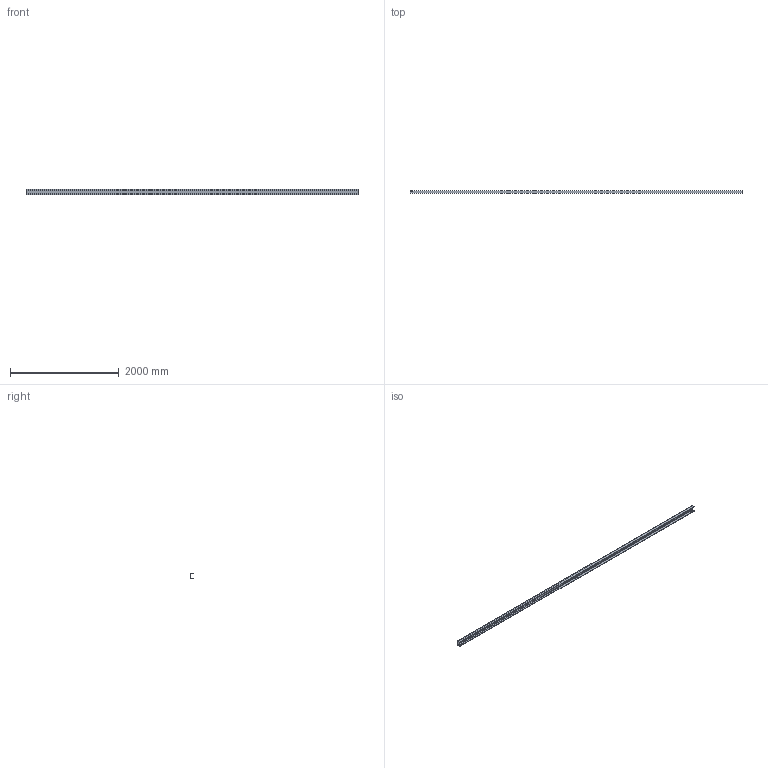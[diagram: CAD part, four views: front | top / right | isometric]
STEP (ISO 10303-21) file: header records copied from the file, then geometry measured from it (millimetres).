
FILE_DESCRIPTION (( 'STEP AP214' ), '1' );
FILE_NAME ('CCJ029-REP.058 - POUTRE SUPERIEURE B1-B4 TYPE 1.STEP', '2024-01-31T09:33:53', ( '' ), ( '' ), 'SwSTEP 2.0', 'SolidWorks 2021', '' );
FILE_SCHEMA (( 'AUTOMOTIVE_DESIGN' ));
Length unit declared in the file: millimetre
Products named in the file (1): CCJ029-REP.058 - POUTRE SUPERIEURE B1-B4 TYPE 1
Bounding box: 6110 x 55 x 100 mm (x, y, z)
Volume: 7633058.4 mm3; surface area: 2461509.6 mm2
Topology: 1 solids, 1 shells, 70 faces, 186 edges, 124 vertices
Faces by surface type: bspline 34, plane 22, cylinder 14
Entity records: 4332 total; most frequent: CARTESIAN_POINT 2735, ORIENTED_EDGE 372, DIRECTION 220, EDGE_CURVE 186, VERTEX_POINT 124, LINE 90, VECTOR 90, EDGE_LOOP 88
